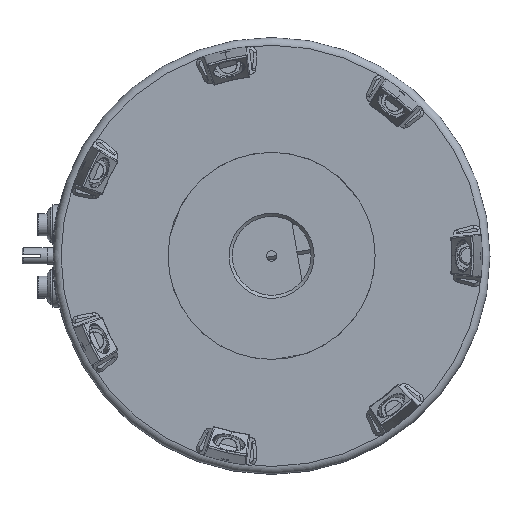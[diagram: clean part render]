
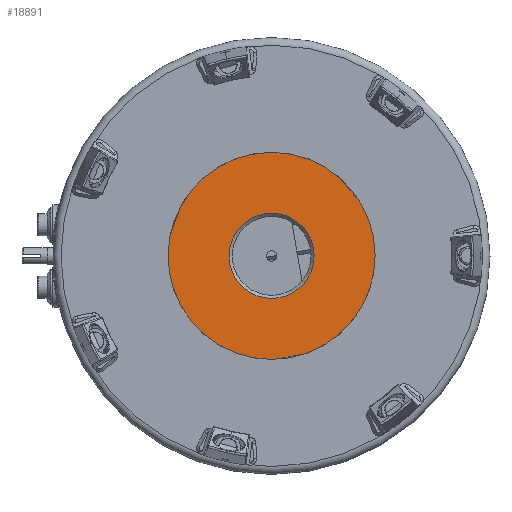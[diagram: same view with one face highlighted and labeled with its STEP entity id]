
A CAD part, top view. The second image highlights one B-rep face of the part: STEP entity #18891.
In plain terms, the highlighted planar face has unit normal (0, 0, 1).
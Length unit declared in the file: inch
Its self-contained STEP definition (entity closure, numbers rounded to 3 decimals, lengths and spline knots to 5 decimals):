
#1251=FACE_BOUND('',#3271,.T.);
#1252=FACE_BOUND('',#3272,.T.);
#1253=FACE_BOUND('',#3273,.T.);
#1254=FACE_BOUND('',#3274,.T.);
#1255=FACE_BOUND('',#3275,.T.);
#1256=FACE_BOUND('',#3276,.T.);
#1257=FACE_BOUND('',#3277,.T.);
#1459=CIRCLE('',#20230,2.01);
#1460=CIRCLE('',#20231,0.68166);
#1461=CIRCLE('',#20232,0.07406);
#1462=CIRCLE('',#20233,0.07406);
#1463=CIRCLE('',#20234,0.07406);
#2148=FACE_OUTER_BOUND('',#3270,.T.);
#3270=EDGE_LOOP('',(#12644));
#3271=EDGE_LOOP('',(#12645,#12646,#12647,#12648));
#3272=EDGE_LOOP('',(#12649));
#3273=EDGE_LOOP('',(#12650));
#3274=EDGE_LOOP('',(#12651));
#3275=EDGE_LOOP('',(#12652));
#3276=EDGE_LOOP('',(#12653,#12654,#12655,#12656));
#3277=EDGE_LOOP('',(#12657,#12658,#12659,#12660));
#4589=LINE('',#26245,#6252);
#4593=LINE('',#26254,#6256);
#4598=LINE('',#26262,#6261);
#4599=LINE('',#26264,#6262);
#4606=LINE('',#26281,#6269);
#4607=LINE('',#26283,#6270);
#4608=LINE('',#26285,#6271);
#4609=LINE('',#26286,#6272);
#4610=LINE('',#26297,#6273);
#4611=LINE('',#26299,#6274);
#4612=LINE('',#26301,#6275);
#4613=LINE('',#26302,#6276);
#6252=VECTOR('',#21700,0.3937);
#6256=VECTOR('',#21706,0.3937);
#6261=VECTOR('',#21713,0.3937);
#6262=VECTOR('',#21716,0.3937);
#6269=VECTOR('',#21731,0.3937);
#6270=VECTOR('',#21732,0.3937);
#6271=VECTOR('',#21733,0.3937);
#6272=VECTOR('',#21734,0.3937);
#6273=VECTOR('',#21743,0.3937);
#6274=VECTOR('',#21744,0.3937);
#6275=VECTOR('',#21745,0.3937);
#6276=VECTOR('',#21746,0.3937);
#7916=VERTEX_POINT('',#26243);
#7917=VERTEX_POINT('',#26244);
#7920=VERTEX_POINT('',#26252);
#7921=VERTEX_POINT('',#26253);
#7927=VERTEX_POINT('',#26277);
#7928=VERTEX_POINT('',#26279);
#7929=VERTEX_POINT('',#26280);
#7930=VERTEX_POINT('',#26282);
#7931=VERTEX_POINT('',#26284);
#7932=VERTEX_POINT('',#26287);
#7933=VERTEX_POINT('',#26289);
#7934=VERTEX_POINT('',#26291);
#7935=VERTEX_POINT('',#26293);
#7936=VERTEX_POINT('',#26295);
#7937=VERTEX_POINT('',#26296);
#7938=VERTEX_POINT('',#26298);
#7939=VERTEX_POINT('',#26300);
#9762=EDGE_CURVE('',#7916,#7917,#4589,.T.);
#9766=EDGE_CURVE('',#7920,#7921,#4593,.T.);
#9771=EDGE_CURVE('',#7921,#7916,#4598,.T.);
#9772=EDGE_CURVE('',#7917,#7920,#4599,.T.);
#9779=EDGE_CURVE('',#7927,#7927,#1459,.T.);
#9780=EDGE_CURVE('',#7928,#7929,#4606,.T.);
#9781=EDGE_CURVE('',#7930,#7928,#4607,.T.);
#9782=EDGE_CURVE('',#7931,#7930,#4608,.T.);
#9783=EDGE_CURVE('',#7929,#7931,#4609,.T.);
#9784=EDGE_CURVE('',#7932,#7932,#1460,.T.);
#9785=EDGE_CURVE('',#7933,#7933,#1461,.T.);
#9786=EDGE_CURVE('',#7934,#7934,#1462,.T.);
#9787=EDGE_CURVE('',#7935,#7935,#1463,.T.);
#9788=EDGE_CURVE('',#7936,#7937,#4610,.T.);
#9789=EDGE_CURVE('',#7938,#7936,#4611,.T.);
#9790=EDGE_CURVE('',#7939,#7938,#4612,.T.);
#9791=EDGE_CURVE('',#7937,#7939,#4613,.T.);
#12644=ORIENTED_EDGE('',*,*,#9779,.F.);
#12645=ORIENTED_EDGE('',*,*,#9780,.F.);
#12646=ORIENTED_EDGE('',*,*,#9781,.F.);
#12647=ORIENTED_EDGE('',*,*,#9782,.F.);
#12648=ORIENTED_EDGE('',*,*,#9783,.F.);
#12649=ORIENTED_EDGE('',*,*,#9784,.F.);
#12650=ORIENTED_EDGE('',*,*,#9785,.F.);
#12651=ORIENTED_EDGE('',*,*,#9786,.F.);
#12652=ORIENTED_EDGE('',*,*,#9787,.F.);
#12653=ORIENTED_EDGE('',*,*,#9788,.F.);
#12654=ORIENTED_EDGE('',*,*,#9789,.F.);
#12655=ORIENTED_EDGE('',*,*,#9790,.F.);
#12656=ORIENTED_EDGE('',*,*,#9791,.F.);
#12657=ORIENTED_EDGE('',*,*,#9766,.F.);
#12658=ORIENTED_EDGE('',*,*,#9772,.F.);
#12659=ORIENTED_EDGE('',*,*,#9762,.F.);
#12660=ORIENTED_EDGE('',*,*,#9771,.F.);
#18280=PLANE('',#20229);
#18891=ADVANCED_FACE('',(#2148,#1251,#1252,#1253,#1254,#1255,#1256,#1257),
#18280,.F.);
#20229=AXIS2_PLACEMENT_3D('',#26276,#21727,#21728);
#20230=AXIS2_PLACEMENT_3D('',#26278,#21729,#21730);
#20231=AXIS2_PLACEMENT_3D('',#26288,#21735,#21736);
#20232=AXIS2_PLACEMENT_3D('',#26290,#21737,#21738);
#20233=AXIS2_PLACEMENT_3D('',#26292,#21739,#21740);
#20234=AXIS2_PLACEMENT_3D('',#26294,#21741,#21742);
#21700=DIRECTION('',(-0.866,0.5,0.));
#21706=DIRECTION('',(0.866,-0.5,0.));
#21713=DIRECTION('',(0.5,0.866,0.));
#21716=DIRECTION('',(-0.5,-0.866,0.));
#21727=DIRECTION('center_axis',(0.,0.,-1.));
#21728=DIRECTION('ref_axis',(1.,0.,0.));
#21729=DIRECTION('center_axis',(0.,0.,-1.));
#21730=DIRECTION('ref_axis',(-0.921,0.388,0.));
#21731=DIRECTION('',(-0.866,-0.5,0.));
#21732=DIRECTION('',(-0.5,0.866,0.));
#21733=DIRECTION('',(0.866,0.5,0.));
#21734=DIRECTION('',(0.5,-0.866,0.));
#21735=DIRECTION('center_axis',(0.,0.,1.));
#21736=DIRECTION('ref_axis',(1.,0.,0.));
#21737=DIRECTION('center_axis',(0.,0.,1.));
#21738=DIRECTION('ref_axis',(1.,0.,0.));
#21739=DIRECTION('center_axis',(0.,0.,1.));
#21740=DIRECTION('ref_axis',(1.,0.,0.));
#21741=DIRECTION('center_axis',(0.,0.,1.));
#21742=DIRECTION('ref_axis',(1.,0.,0.));
#21743=DIRECTION('',(0.,1.,0.));
#21744=DIRECTION('',(1.,0.,0.));
#21745=DIRECTION('',(0.,-1.,0.));
#21746=DIRECTION('',(-1.,0.,0.));
#26243=CARTESIAN_POINT('',(1.70623,-0.85519,2.25));
#26244=CARTESIAN_POINT('',(1.55467,-0.76769,2.25));
#26245=CARTESIAN_POINT('',(0.81953,-0.34325,2.25));
#26252=CARTESIAN_POINT('',(1.44217,-0.96254,2.25));
#26253=CARTESIAN_POINT('',(1.59373,-1.05004,2.25));
#26254=CARTESIAN_POINT('',(0.75467,-0.56561,2.25));
#26262=CARTESIAN_POINT('',(1.66998,-0.91797,2.25));
#26264=CARTESIAN_POINT('',(1.47842,-0.89976,2.25));
#26276=CARTESIAN_POINT('Origin',(0.,0.,2.25));
#26277=CARTESIAN_POINT('',(1.85219,-0.78069,2.25));
#26278=CARTESIAN_POINT('Origin',(0.,0.,2.25));
#26279=CARTESIAN_POINT('',(-1.55467,-0.76769,2.25));
#26280=CARTESIAN_POINT('',(-1.70623,-0.85519,2.25));
#26281=CARTESIAN_POINT('',(-0.86717,-0.37075,2.25));
#26282=CARTESIAN_POINT('',(-1.44217,-0.96254,2.25));
#26283=CARTESIAN_POINT('',(-1.51842,-0.83047,2.25));
#26284=CARTESIAN_POINT('',(-1.59373,-1.05004,2.25));
#26285=CARTESIAN_POINT('',(-0.70703,-0.53811,2.25));
#26286=CARTESIAN_POINT('',(-1.62998,-0.98726,2.25));
#26287=CARTESIAN_POINT('',(-0.68166,0.,2.25));
#26288=CARTESIAN_POINT('Origin',(0.,0.,
2.25));
#26289=CARTESIAN_POINT('',(-0.07406,-1.81773,2.25));
#26290=CARTESIAN_POINT('Origin',(0.,-1.81773,
2.25));
#26291=CARTESIAN_POINT('',(-1.64825,0.90886,2.25));
#26292=CARTESIAN_POINT('Origin',(-1.5742,0.90886,2.25));
#26293=CARTESIAN_POINT('',(1.50014,0.90886,2.25));
#26294=CARTESIAN_POINT('Origin',(1.5742,0.90886,2.25));
#26295=CARTESIAN_POINT('',(0.1125,1.73023,2.25));
#26296=CARTESIAN_POINT('',(0.1125,1.90523,2.25));
#26297=CARTESIAN_POINT('',(0.1125,0.93636,2.25));
#26298=CARTESIAN_POINT('',(-0.1125,1.73023,2.25));
#26299=CARTESIAN_POINT('',(0.04,1.73023,2.25));
#26300=CARTESIAN_POINT('',(-0.1125,1.90523,2.25));
#26301=CARTESIAN_POINT('',(-0.1125,0.88136,2.25));
#26302=CARTESIAN_POINT('',(-0.04,1.90523,2.25));
